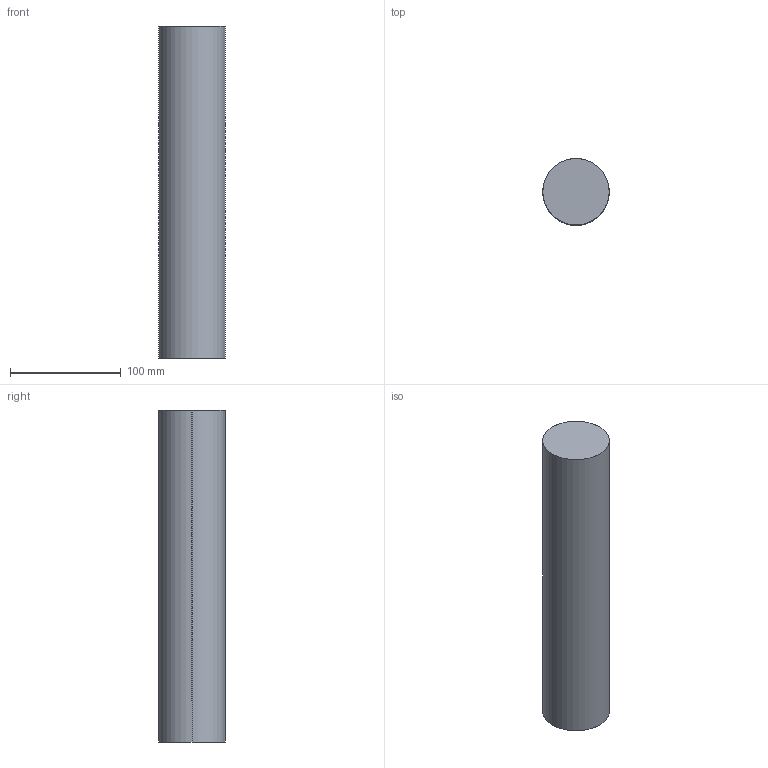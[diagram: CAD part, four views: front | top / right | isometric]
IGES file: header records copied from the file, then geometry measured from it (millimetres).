
Start section: SolidWorks IGES file using analytic representation for surfaces
Global section: file name: R:\Inventor\Kundmodeller Solidworks\Fästen\Mounting column Ø60x300 041J004333.IGS; native system: SolidWorks 2008; preprocessor: SolidWorks 2008; author: Andreas; date: 091016.102115; units: millimetre
Bounding box: 60 x 60 x 300 mm (x, y, z)
Surface area: 62203.5 mm2 (no closed solid volume)
Topology: 0 solids, 0 shells, 4 faces, 136 edges, 136 vertices
Faces by surface type: revolution 2, bspline 2
